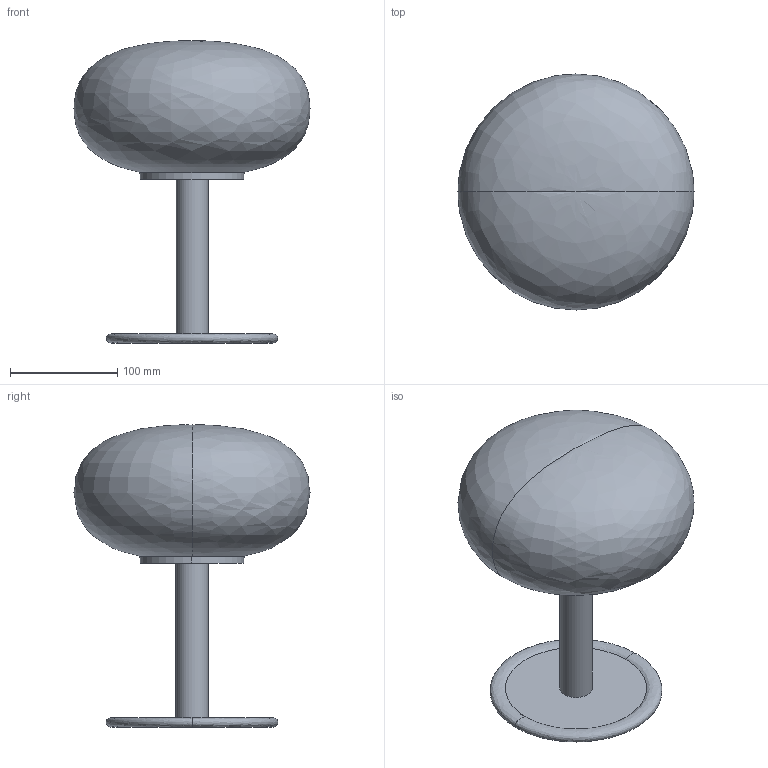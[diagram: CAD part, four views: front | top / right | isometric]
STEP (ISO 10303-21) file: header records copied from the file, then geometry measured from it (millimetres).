
FILE_DESCRIPTION(/* description */ (''),/* implementation_level */ '2;1');
FILE_NAME(/* name */ 'ILKW_SNOWBALL22_V2_Table_3D',/* time_stamp */ '2026-08-28T17:22:50+09:00',/* author */ (''),/* organization */ (''),/* preprocessor_version */ 'ST-DEVELOPER v19.2',/* originating_system */ 'Rhino 8.21',/* authorisation */ '');
FILE_SCHEMA (('CONFIG_CONTROL_DESIGN'));
Length unit declared in the file: millimetre
Products named in the file (1): Document
Bounding box: 220 x 220 x 282 mm (x, y, z)
Volume: 3810968.4 mm3; surface area: 175926.5 mm2
Topology: 1 solids, 1 shells, 13 faces, 27 edges, 16 vertices
Faces by surface type: bspline 6, plane 5, cylinder 2
Entity records: 651 total; most frequent: CARTESIAN_POINT 330, ORIENTED_EDGE 50, DIRECTION 39, EDGE_CURVE 25, AXIS2_PLACEMENT_3D 23, VERTEX_POINT 16, EDGE_LOOP 15, TRIMMED_CURVE 14
